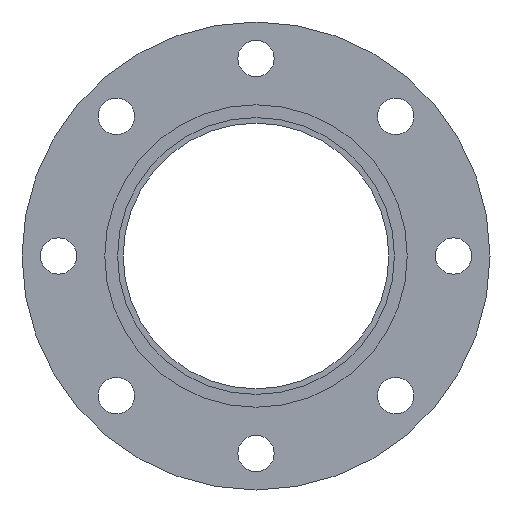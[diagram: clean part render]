
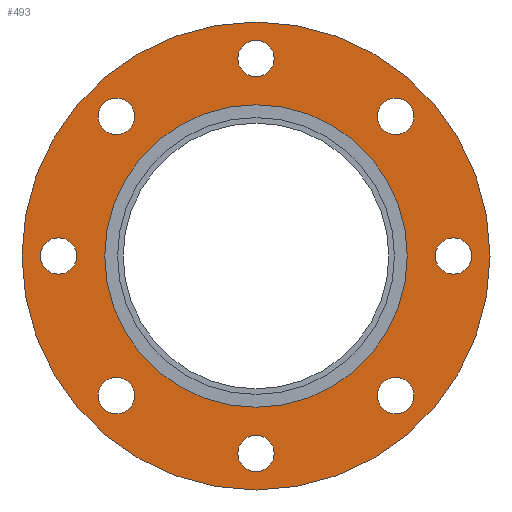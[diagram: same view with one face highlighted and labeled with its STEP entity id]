
A CAD part, left-side view. The second image highlights one B-rep face of the part: STEP entity #493.
In plain terms, the highlighted planar face has unit normal (-1, 0, 0).
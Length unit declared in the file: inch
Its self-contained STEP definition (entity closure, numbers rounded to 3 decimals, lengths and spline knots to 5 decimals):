
#49=FACE_BOUND('',#119,.T.);
#50=FACE_BOUND('',#120,.T.);
#51=FACE_BOUND('',#121,.T.);
#52=FACE_BOUND('',#122,.T.);
#53=FACE_BOUND('',#123,.T.);
#54=FACE_BOUND('',#124,.T.);
#55=FACE_BOUND('',#125,.T.);
#56=FACE_BOUND('',#126,.T.);
#57=FACE_BOUND('',#127,.T.);
#72=PLANE('',#571);
#92=FACE_OUTER_BOUND('',#118,.T.);
#118=EDGE_LOOP('',(#397,#398));
#119=EDGE_LOOP('',(#399));
#120=EDGE_LOOP('',(#400));
#121=EDGE_LOOP('',(#401));
#122=EDGE_LOOP('',(#402));
#123=EDGE_LOOP('',(#403));
#124=EDGE_LOOP('',(#404));
#125=EDGE_LOOP('',(#405));
#126=EDGE_LOOP('',(#406));
#127=EDGE_LOOP('',(#407,#408));
#173=CIRCLE('',#520,0.435);
#175=CIRCLE('',#523,0.435);
#177=CIRCLE('',#526,0.435);
#179=CIRCLE('',#529,0.435);
#181=CIRCLE('',#532,0.435);
#183=CIRCLE('',#535,0.435);
#185=CIRCLE('',#538,0.435);
#187=CIRCLE('',#541,0.435);
#206=CIRCLE('',#569,3.62);
#207=CIRCLE('',#570,3.62);
#208=CIRCLE('',#572,5.6);
#209=CIRCLE('',#573,5.6);
#217=VERTEX_POINT('',#776);
#219=VERTEX_POINT('',#782);
#221=VERTEX_POINT('',#788);
#223=VERTEX_POINT('',#794);
#225=VERTEX_POINT('',#800);
#227=VERTEX_POINT('',#806);
#229=VERTEX_POINT('',#812);
#231=VERTEX_POINT('',#818);
#250=VERTEX_POINT('',#870);
#251=VERTEX_POINT('',#871);
#252=VERTEX_POINT('',#876);
#253=VERTEX_POINT('',#877);
#262=EDGE_CURVE('',#217,#217,#173,.T.);
#265=EDGE_CURVE('',#219,#219,#175,.T.);
#268=EDGE_CURVE('',#221,#221,#177,.T.);
#271=EDGE_CURVE('',#223,#223,#179,.T.);
#274=EDGE_CURVE('',#225,#225,#181,.T.);
#277=EDGE_CURVE('',#227,#227,#183,.T.);
#280=EDGE_CURVE('',#229,#229,#185,.T.);
#283=EDGE_CURVE('',#231,#231,#187,.T.);
#306=EDGE_CURVE('',#250,#251,#206,.T.);
#307=EDGE_CURVE('',#251,#250,#207,.T.);
#309=EDGE_CURVE('',#252,#253,#208,.T.);
#310=EDGE_CURVE('',#253,#252,#209,.T.);
#397=ORIENTED_EDGE('',*,*,#309,.F.);
#398=ORIENTED_EDGE('',*,*,#310,.F.);
#399=ORIENTED_EDGE('',*,*,#262,.T.);
#400=ORIENTED_EDGE('',*,*,#265,.T.);
#401=ORIENTED_EDGE('',*,*,#268,.T.);
#402=ORIENTED_EDGE('',*,*,#271,.T.);
#403=ORIENTED_EDGE('',*,*,#274,.T.);
#404=ORIENTED_EDGE('',*,*,#277,.T.);
#405=ORIENTED_EDGE('',*,*,#280,.T.);
#406=ORIENTED_EDGE('',*,*,#283,.T.);
#407=ORIENTED_EDGE('',*,*,#306,.T.);
#408=ORIENTED_EDGE('',*,*,#307,.T.);
#493=ADVANCED_FACE('',(#92,#49,#50,#51,#52,#53,#54,#55,#56,#57),#72,.T.);
#520=AXIS2_PLACEMENT_3D('',#778,#604,#605);
#523=AXIS2_PLACEMENT_3D('',#784,#611,#612);
#526=AXIS2_PLACEMENT_3D('',#790,#618,#619);
#529=AXIS2_PLACEMENT_3D('',#796,#625,#626);
#532=AXIS2_PLACEMENT_3D('',#802,#632,#633);
#535=AXIS2_PLACEMENT_3D('',#808,#639,#640);
#538=AXIS2_PLACEMENT_3D('',#814,#646,#647);
#541=AXIS2_PLACEMENT_3D('',#820,#653,#654);
#569=AXIS2_PLACEMENT_3D('',#872,#713,#714);
#570=AXIS2_PLACEMENT_3D('',#873,#715,#716);
#571=AXIS2_PLACEMENT_3D('',#875,#718,#719);
#572=AXIS2_PLACEMENT_3D('',#878,#720,#721);
#573=AXIS2_PLACEMENT_3D('',#879,#722,#723);
#604=DIRECTION('center_axis',(1.,0.,0.));
#605=DIRECTION('ref_axis',(0.,0.707,0.707));
#611=DIRECTION('center_axis',(1.,0.,0.));
#612=DIRECTION('ref_axis',(0.,1.,0.));
#618=DIRECTION('center_axis',(1.,0.,0.));
#619=DIRECTION('ref_axis',(0.,0.707,-0.707));
#625=DIRECTION('center_axis',(1.,0.,0.));
#626=DIRECTION('ref_axis',(0.,0.,-1.));
#632=DIRECTION('center_axis',(1.,0.,0.));
#633=DIRECTION('ref_axis',(0.,-0.707,-0.707));
#639=DIRECTION('center_axis',(1.,0.,0.));
#640=DIRECTION('ref_axis',(0.,-1.,0.));
#646=DIRECTION('center_axis',(1.,0.,0.));
#647=DIRECTION('ref_axis',(0.,-0.707,0.707));
#653=DIRECTION('center_axis',(1.,0.,0.));
#654=DIRECTION('ref_axis',(0.,0.,1.));
#713=DIRECTION('center_axis',(1.,0.,0.));
#714=DIRECTION('ref_axis',(0.,0.,-1.));
#715=DIRECTION('center_axis',(1.,0.,0.));
#716=DIRECTION('ref_axis',(0.,0.,-1.));
#718=DIRECTION('center_axis',(-1.,0.,0.));
#719=DIRECTION('ref_axis',(0.,0.,1.));
#720=DIRECTION('center_axis',(1.,0.,0.));
#721=DIRECTION('ref_axis',(0.,0.,-1.));
#722=DIRECTION('center_axis',(1.,0.,0.));
#723=DIRECTION('ref_axis',(0.,0.,-1.));
#776=CARTESIAN_POINT('',(-0.87,3.03349,-3.64867));
#778=CARTESIAN_POINT('Origin',(-0.87,3.34108,-3.34108));
#782=CARTESIAN_POINT('',(-0.87,-0.435,-4.725));
#784=CARTESIAN_POINT('Origin',(-0.87,0.,
-4.725));
#788=CARTESIAN_POINT('',(-0.87,-3.64867,-3.03349));
#790=CARTESIAN_POINT('Origin',(-0.87,-3.34108,-3.34108));
#794=CARTESIAN_POINT('',(-0.87,-4.725,0.435));
#796=CARTESIAN_POINT('Origin',(-0.87,-4.725,0.));
#800=CARTESIAN_POINT('',(-0.87,-3.03349,3.64867));
#802=CARTESIAN_POINT('Origin',(-0.87,-3.34108,3.34108));
#806=CARTESIAN_POINT('',(-0.87,0.435,4.725));
#808=CARTESIAN_POINT('Origin',(-0.87,0.,
4.725));
#812=CARTESIAN_POINT('',(-0.87,3.64867,3.03349));
#814=CARTESIAN_POINT('Origin',(-0.87,3.34108,3.34108));
#818=CARTESIAN_POINT('',(-0.87,4.725,-0.435));
#820=CARTESIAN_POINT('Origin',(-0.87,4.725,0.));
#870=CARTESIAN_POINT('',(-0.87,3.62,0.));
#871=CARTESIAN_POINT('',(-0.87,-3.62,0.));
#872=CARTESIAN_POINT('Origin',(-0.87,0.,
0.));
#873=CARTESIAN_POINT('Origin',(-0.87,0.,
0.));
#875=CARTESIAN_POINT('Origin',(-0.87,5.6,0.));
#876=CARTESIAN_POINT('',(-0.87,5.6,0.));
#877=CARTESIAN_POINT('',(-0.87,-5.6,0.));
#878=CARTESIAN_POINT('Origin',(-0.87,0.,
0.));
#879=CARTESIAN_POINT('Origin',(-0.87,0.,
0.));
